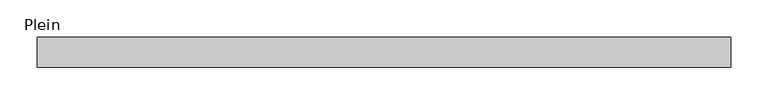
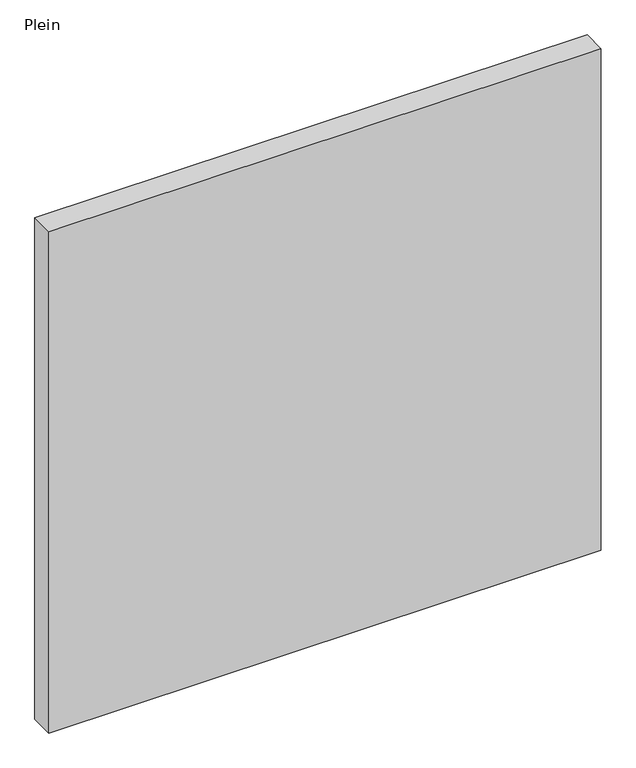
"""IFC4 building model written with IfcOpenShell, lengths in millimetres: plate geometry, Panneau système : Plein."""

from ifc_helpers import new_model, si_unit, origin, origin_with_axes, place, context, project, spatial, polyline, outline, extrude, source, transform, mapped, element, save


def plein_653b2a6c(model_context):
    return source(origin(), model_context, "Body", "SweptSolid", [
        extrude(outline(polyline([(465.0, 5.0), (-465.0, 5.0), (-465.0, 45.0), (465.0, 45.0), (465.0, 5.0)])), origin_with_axes(), (0.0, 0.0, 1.0), 891.9604608),
    ])


if __name__ == "__main__":
    model = new_model("IFC4")
    model_context = context("Model", 3, world=origin())
    ifc_project = project(units=[si_unit("LENGTHUNIT", "METRE", prefix="MILLI")], contexts=[model_context])
    site = spatial("IfcSite", under=ifc_project)
    building = spatial("IfcBuilding", under=site)
    placement = place(None, origin())
    plein_shape = plein_653b2a6c(model_context)
    element("IfcPlate", 1, ObjectType="Panneau système : Plein", at=placement, inside=building, context=model_context, shape_type="MappedRepresentation", body=[
        mapped(plein_shape, transform((0.0, 0.0, 0.0), x_axis=(1.0, 0.0, 0.0), y_axis=(0.0, 1.0, 0.0), z_axis=(0.0, 0.0, 1.0))),
    ])
    save(model, "model.ifc")
